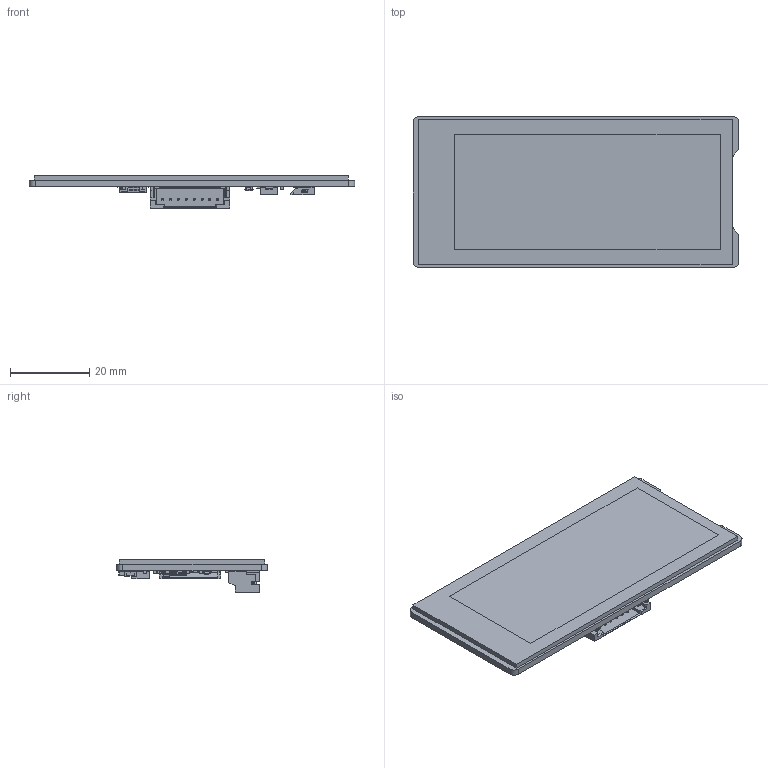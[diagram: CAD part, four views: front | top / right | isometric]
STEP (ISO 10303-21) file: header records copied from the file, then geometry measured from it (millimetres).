
FILE_DESCRIPTION(/* description */ (''),/* implementation_level */ '2;1');
FILE_NAME(/* name */ '2.9inch E-Paper Display-V1.2_step_stp.prt.stp',/* time_stamp */ '2025-08-27T09:49:10+08:00',/* author */ (''),/* organization */ (''),/* preprocessor_version */ 'ST-DEVELOPER v16.7',/* originating_system */ 'SIEMENS PLM Software NX 12.0',/* authorisation */ '');
FILE_SCHEMA (('AUTOMOTIVE_DESIGN { 1 0 10303 214 3 1 1 1 }'));
Products named in the file (56): 3_1_2_3_4_5_600; 2_1_2_3_4_5_600; 1_1_2_3_4_5_6_A; PH2_0_SMD-W__1_2_30004; C_060335096; LOGO_; SOD123; XEL4020; sc70-3; User_Library-R0603-2; Slide-SW_SPDT; SOT23-5-2; txs0108epwr; FPC-SMD_24P-P0.50-L6.1-W16.4; Aban; pingmu1; C_0603; C1; C2; C3; C4; C5; C6; C7; C8; C9; C10; C11; C12; C13; C14; C15; C16; D1; D2; D3; L1; PH2_0_SMD-W-8P-8268_AF0_ASM; PH2_0_SMD-W-8P-13506_AF0_ASM; PH2.0_SMD-W-8P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
Assembly tree (84 placements, depth 8):
  2.9inch  E-Paper Display-V1.2_step_stp
    Board
      Aban
    J1
      FPC-SMD_24P-P0.50-L6.1-W16.4
    U2
      txs0108epwr
    C17
      C_0603
        LOGO_
        C_060335096
    U1
      SOT23-5-2
    SW1
      Slide-SW_SPDT
    R6
      User_Library-R0603-2
    R5
      User_Library-R0603-2
    R4
      User_Library-R0603-2
    R3
      User_Library-R0603-2
    R1
      User_Library-R0603-2
    Q1
      sc70-3
    P1
      PH2_0-8PWB
        Designator10
          PH2.0_SMD-W-8P
            PH2_0_SMD-W-8P-13506_AF0_ASM
              PH2_0_SMD-W-8P-8268_AF0_ASM
                1_1_2_3_4_5_6_A
                2_1_2_3_4_5_600
                3_1_2_3_4_5_600
              PH2_0_SMD-W__1_2_30004  x8
    L1
      XEL4020
    D3
      SOD123
    D2
      SOD123
    D1
      SOD123
    C16
      C_0603
        LOGO_
        C_060335096
    C15
      C_0603
        LOGO_
        C_060335096
    C14
      C_0603
        LOGO_
        C_060335096
    C13
      C_0603
        LOGO_
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Bounding box: 82 x 38 x 8.3 mm (x, y, z)
Volume: 8893.7 mm3; surface area: 15019.1 mm2
Topology: 320 solids, 320 shells, 6181 faces, 15351 edges, 9894 vertices
Faces by surface type: plane 3229, bspline 1563, cylinder 1179, sphere 142, torus 68
Full cylindrical faces by diameter (mm): 2.5 x4
Entity records: 83968 total; most frequent: CARTESIAN_POINT 22310, ORIENTED_EDGE 11924, DIRECTION 10399, EDGE_CURVE 5962, LINE 4681, VECTOR 4681, VERTEX_POINT 3896, AXIS2_PLACEMENT_3D 2859
